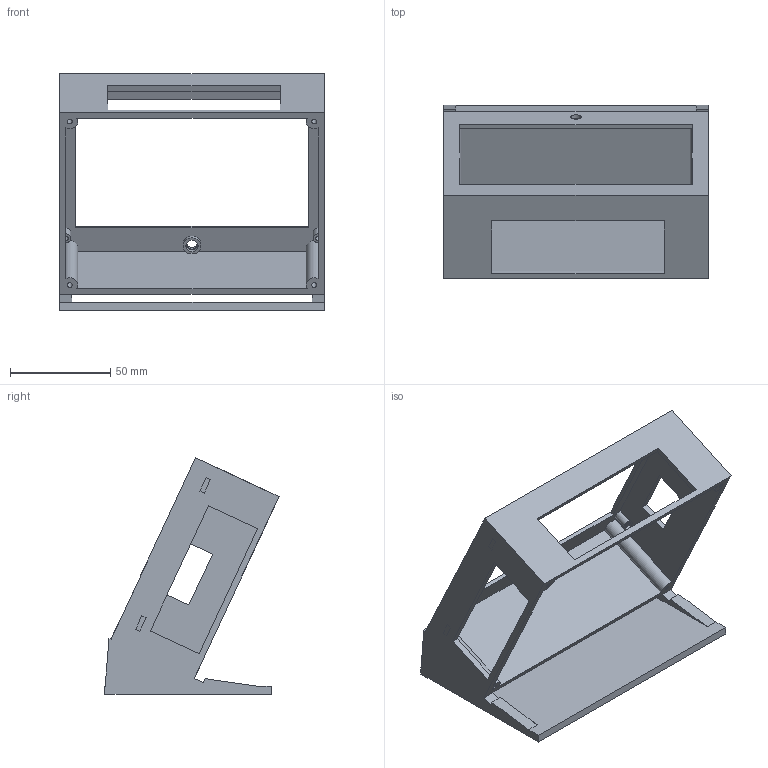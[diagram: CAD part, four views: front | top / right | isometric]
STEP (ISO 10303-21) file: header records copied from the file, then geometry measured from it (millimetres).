
FILE_DESCRIPTION(('Open CASCADE Model'),'2;1');
FILE_NAME('Open CASCADE Shape Model','2026-11-04T16:23:17',('Author'),( 'Open CASCADE'),'Open CASCADE STEP processor 7.8','Open CASCADE 7.8' ,'Unknown');
FILE_SCHEMA(('AUTOMOTIVE_DESIGN { 1 0 10303 214 1 1 1 1 }'));
Length unit declared in the file: millimetre
Products named in the file (1): Open CASCADE STEP translator 7.8 1
Bounding box: 132 x 86.86 x 118.07 mm (x, y, z)
Volume: 112392.9 mm3; surface area: 69579.3 mm2
Topology: 1 solids, 1 shells, 92 faces, 250 edges, 168 vertices
Faces by surface type: plane 73, cylinder 19
Full cylindrical faces by diameter (mm): 2.5 x8, 5.3 x1, 6.2 x1
Entity records: 6144 total; most frequent: CARTESIAN_POINT 1147, DIRECTION 902, LINE 602, VECTOR 602, ORIENTED_EDGE 500, PCURVE 500, DEFINITIONAL_REPRESENTATION 500, EDGE_CURVE 250
